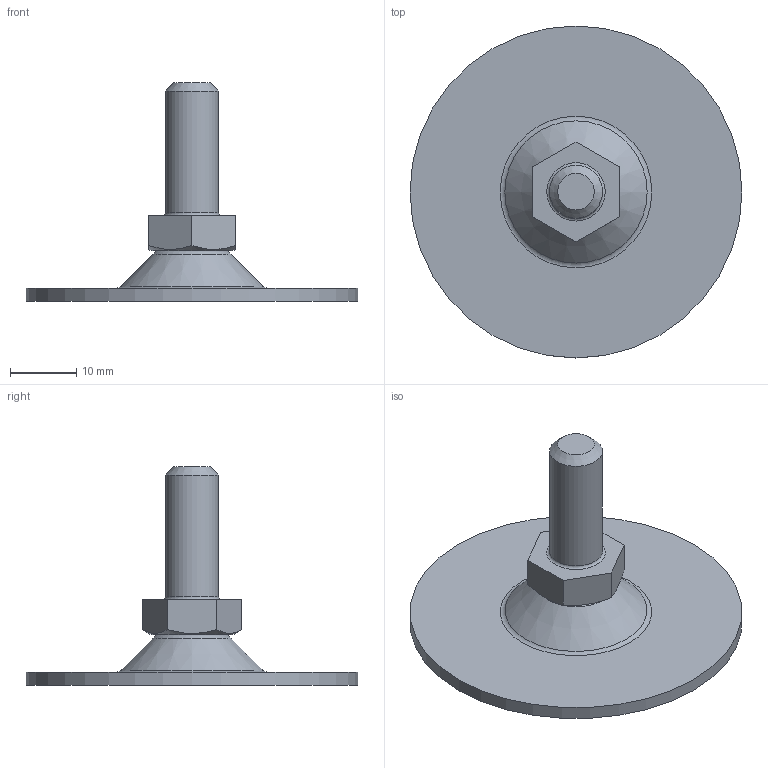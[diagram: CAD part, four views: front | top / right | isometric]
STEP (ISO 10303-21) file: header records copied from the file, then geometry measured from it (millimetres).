
FILE_DESCRIPTION(('STEP AP203'), '1');
FILE_NAME('A00050.1050816', '', ('UNSPECIFIED'), ('UNSPECIFIED'), 'C3D Converter', 'C3D Toolkit', '');
FILE_SCHEMA(('CONFIG_CONTROL_DESIGN'));
Length unit declared in the file: millimetre
Products named in the file (4): A00050.1050820; A00050.1050
Assembly tree (3 placements, depth 2):
  A00050.1050820
    A00050.1050
    (unnamed)
    (unnamed)
Bounding box: 50 x 50 x 32.92 mm (x, y, z)
Volume: 5927.1 mm3; surface area: 5884 mm2
Topology: 3 solids, 3 shells, 58 faces, 130 edges, 82 vertices
Faces by surface type: plane 28, torus 8, bspline 8, cone 7, cylinder 6, sphere 1
Full cylindrical faces by diameter (mm): 3.3 x1, 4 x1, 4.5 x1, 8 x2, 50 x1
Entity records: 2171 total; most frequent: CARTESIAN_POINT 784, DIRECTION 242, ORIENTED_EDGE 214, EDGE_CURVE 107, AXIS2_PLACEMENT_3D 95, EDGE_LOOP 86, VERTEX_POINT 81, ADVANCED_FACE 58
